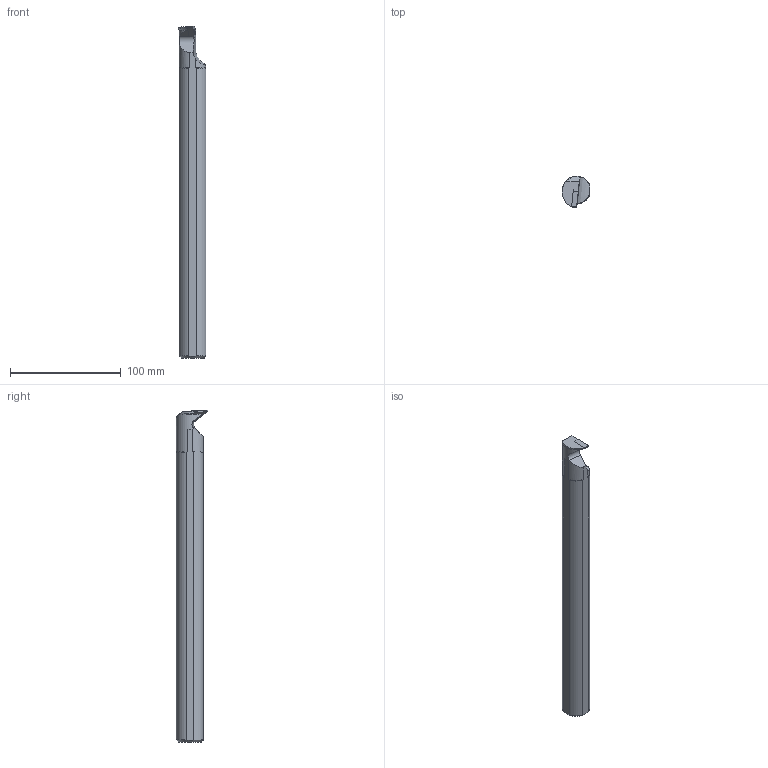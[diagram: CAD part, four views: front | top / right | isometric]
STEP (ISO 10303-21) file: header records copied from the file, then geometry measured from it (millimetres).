
FILE_DESCRIPTION(/* description */ (''),/* implementation_level */ '2;1');
FILE_NAME(/* name */ 'S25T-SVUBR-16-HAAS-.stp',/* time_stamp */ '2021-09-28T12:08:17+09:00',/* author */ (''),/* organization */ (''),/* preprocessor_version */ 'ST-DEVELOPER v11',/* originating_system */ 'SIEMENS UGS NX 6.0',/* authorisation */ '');
FILE_SCHEMA (('CONFIG_CONTROL_DESIGN'));
Length unit declared in the file: millimetre
Products named in the file (1): user19614c1n
Bounding box: 25.18 x 28.6 x 299.93 mm (x, y, z)
Volume: 137517.1 mm3; surface area: 24328.7 mm2
Topology: 2 solids, 2 shells, 32 faces, 84 edges, 56 vertices
Faces by surface type: plane 16, cone 8, cylinder 8
Full cylindrical faces by diameter (mm): 4.4 x1
Entity records: 1089 total; most frequent: CARTESIAN_POINT 231, ORIENTED_EDGE 160, DIRECTION 158, EDGE_CURVE 80, AXIS2_PLACEMENT_3D 60, VERTEX_POINT 54, LINE 38, VECTOR 38
